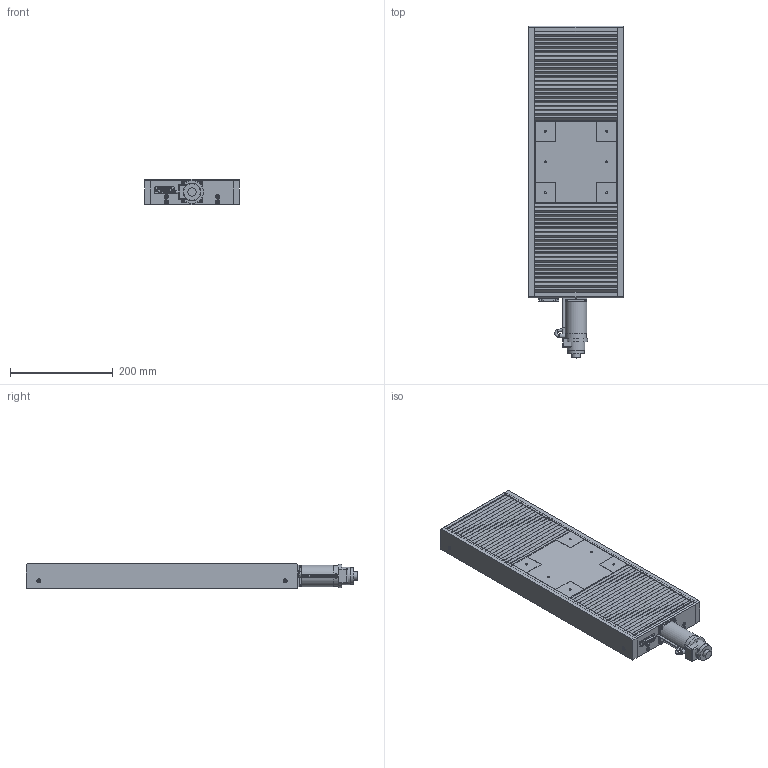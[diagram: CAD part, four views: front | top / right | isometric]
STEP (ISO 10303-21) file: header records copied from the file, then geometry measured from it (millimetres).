
FILE_DESCRIPTION(/* description */ (''),/* implementation_level */ '2;1');
FILE_NAME(/* name */ 'H:\Inventor\Katalog\3D-CAD-Modelle\STP neu\LT6-Lxxx_CAD.stp',/* time_stamp */ '2024-01-19T12:13:42+01:00',/* author */ ('KON3'),/* organization */ (''),/* preprocessor_version */ 'ST-DEVELOPER v18',/* originating_system */ 'Autodesk Inventor 2020',/* authorisation */ '');
FILE_SCHEMA (('AUTOMOTIVE_DESIGN { 1 0 10303 214 3 1 1 }'));
Products named in the file (8): LT6-Lxxx_CAD; LT6-Lxxx_unten; LT6-Lxxx_oben; LT6-Lxxx_Faltenbalg; ZSS43-MOK_25_Shrinkwrap_1; M35-MAX-GD-Zubehoer_Shrinkwrap_1; M35-MAX-O-Zubehoer_Shrinkwrap_1; ZSS43-Bremse_Shrinkwrap_1
Assembly tree (7 placements, depth 2):
  LT6-Lxxx_CAD
    LT6-Lxxx_unten
    LT6-Lxxx_oben
    LT6-Lxxx_Faltenbalg
    ZSS43-MOK_25_Shrinkwrap_1
    M35-MAX-GD-Zubehoer_Shrinkwrap_1
    M35-MAX-O-Zubehoer_Shrinkwrap_1
    ZSS43-Bremse_Shrinkwrap_1
Bounding box: 185 x 647 x 50 mm (x, y, z)
Volume: 3416697 mm3; surface area: 870374.3 mm2
Topology: 59 solids, 59 shells, 2032 faces, 5441 edges, 3672 vertices
Faces by surface type: plane 1175, cylinder 597, cone 131, bspline 70, torus 56, sphere 3
Full cylindrical faces by diameter (mm): 1 x30, 1.221 x2, 1.567 x8, 1.783 x4, 2 x4, 2.013 x16, 2.156 x2, 2.2 x4, 2.459 x20, 3 x18, 3.2 x18, 3.5 x24, 4 x17, 4.134 x4, 4.3 x16, 4.5 x2, 4.917 x8, 5 x4, 5.3 x1, 5.5 x16, 6 x26, 7 x12, 8 x16, 10 x8, 13 x5, 16 x1, 22 x3, 22.1 x1, 28.5 x1, 30.2 x1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
Entity records: 67241 total; most frequent: CARTESIAN_POINT 12937, DIRECTION 10898, ORIENTED_EDGE 10728, EDGE_CURVE 5364, AXIS2_PLACEMENT_3D 3904, VERTEX_POINT 3672, LINE 3090, VECTOR 3090
